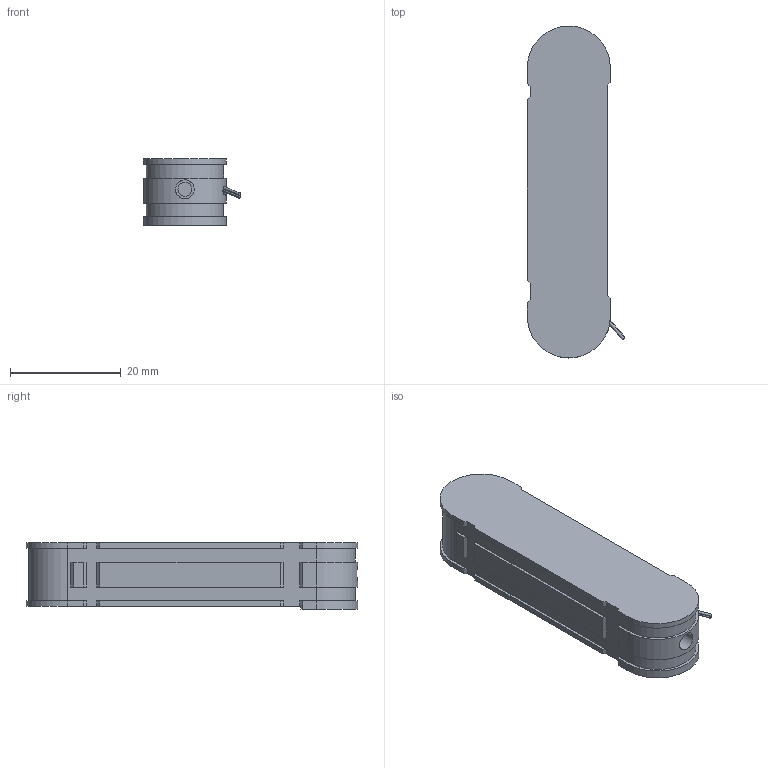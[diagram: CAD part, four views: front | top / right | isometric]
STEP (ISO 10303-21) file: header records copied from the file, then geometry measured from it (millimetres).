
FILE_DESCRIPTION (( 'STEP AP203' ), '1' );
FILE_NAME ('H01F.18K-B1-26.04.28.STEP', '2026-04-28T03:28:03', ( 'PC' ), ( 'Microsoft' ), 'SwSTEP 2.0', 'SolidWorks 2016', '' );
FILE_SCHEMA (( 'CONFIG_CONTROL_DESIGN' ));
Length unit declared in the file: millimetre
Products named in the file (3): H01F.18K-B1-26.04.28; 堤盄傷; 嫖玹壩梠ん
Assembly tree (2 placements, depth 2):
  H01F.18K-B1-26.04.28
    嫖玹壩梠ん
    堤盄傷
Bounding box: 17.58 x 60 x 12 mm (x, y, z)
Volume: 9217.3 mm3; surface area: 3621.6 mm2
Topology: 3 solids, 3 shells, 104 faces, 264 edges, 168 vertices
Faces by surface type: plane 62, cylinder 30, cone 8, torus 4
Entity records: 3443 total; most frequent: CARTESIAN_POINT 629, DIRECTION 530, ORIENTED_EDGE 512, EDGE_CURVE 256, VECTOR 188, LINE 188, AXIS2_PLACEMENT_3D 171, VERTEX_POINT 168
